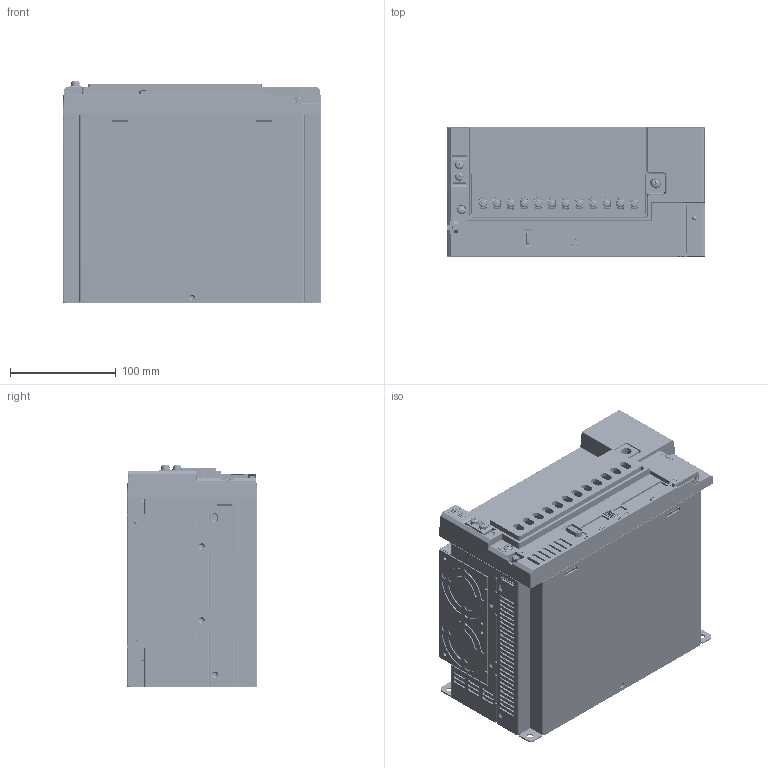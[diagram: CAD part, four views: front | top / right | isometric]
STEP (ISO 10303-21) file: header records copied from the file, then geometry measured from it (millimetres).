
FILE_DESCRIPTION((''),'2;1');
FILE_NAME('D:\999999.黃世程_移交過資料_20171003\0._專案\4.伺服驅動器\20210415_給客人3D\SDP-D框\SDP-D框簡化.stp','2021-04-15T19:06:38',('11254'),(''),'Autodesk Inventor 2008','Autodesk Inventor 2008','');
FILE_SCHEMA(('AUTOMOTIVE_DESIGN { 1 0 10303 214 1 1 1 1 }'));
Length unit declared in the file: millimetre
Products named in the file (1): SDP-D框簡化
Bounding box: 245 x 123.5 x 210.76 mm (x, y, z)
Volume: 5326444.3 mm3; surface area: 542007.1 mm2
Topology: 1 solids, 7 shells, 8605 faces, 24681 edges, 16393 vertices
Faces by surface type: plane 6810, cylinder 1259, bspline 296, cone 144, sphere 53, torus 43
Full cylindrical faces by diameter (mm): 0.415 x5, 0.707 x1, 1.267 x4, 1.5 x6, 1.777 x1, 1.81 x1, 2 x3, 2.2 x1, 3 x6, 3.25 x24, 3.4 x4, 3.571 x5, 4 x34, 4.1 x1, 4.2 x3, 4.3 x9, 4.5 x6, 4.7 x1, 5 x1, 5.3 x4, 5.765 x1, 6 x8, 6.657 x1, 8 x2, 9 x5, 60 x2
Entity records: 283004 total; most frequent: CARTESIAN_POINT 58719, ORIENTED_EDGE 48602, DIRECTION 42669, EDGE_CURVE 24301, VECTOR 20637, LINE 20637, VERTEX_POINT 16282, AXIS2_PLACEMENT_3D 11016
